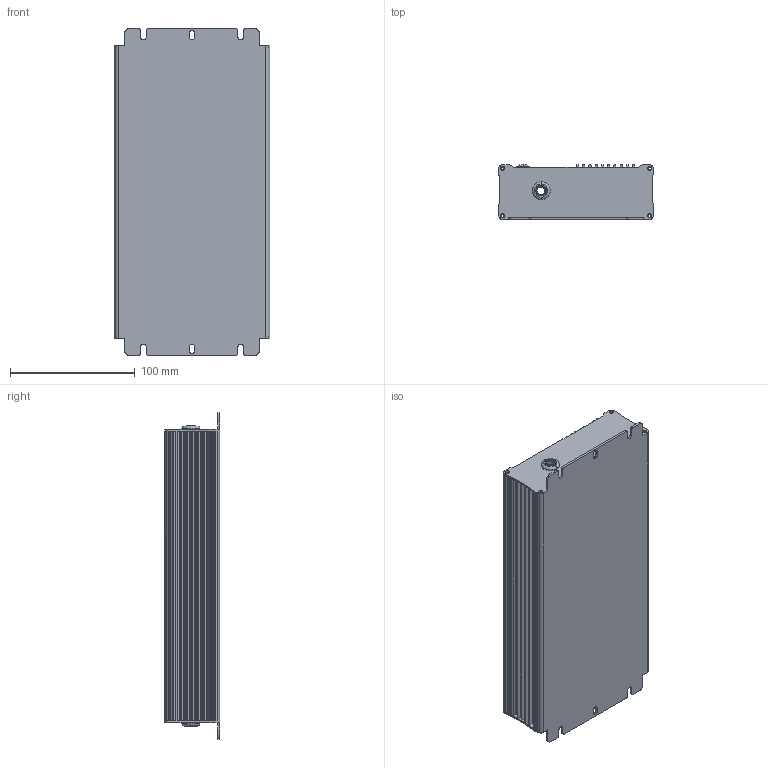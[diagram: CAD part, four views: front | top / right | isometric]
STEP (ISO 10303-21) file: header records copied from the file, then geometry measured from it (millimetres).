
FILE_DESCRIPTION(('Creo Elements/Direct Modeling STEP Export'),'2;1');
FILE_NAME('HLG-480-ATYPE.stp','2017-07-24T10:04:14',(''),(''),'PTC Creo Elements/Direct Modeling STEP processor for AP214 (Solid Model)','PTC Creo Elements/Direct Modeling 19.0 09-May-2014 (C) Parametric Technology GmbH','');
FILE_SCHEMA(('AUTOMOTIVE_DESIGN { 1 0 10303 214 1 1 1 1 }'));
Length unit declared in the file: millimetre
Products named in the file (5): ddd.2; ddd.1; ddd; 下蓋.1; HLG-480
Assembly tree (4 placements, depth 2):
  HLG-480
    下蓋.1
    ddd
    ddd.1
    ddd.2
Bounding box: 125.02 x 44.3 x 262 mm (x, y, z)
Volume: 226791.3 mm3; surface area: 212045.9 mm2
Topology: 3 solids, 5 shells, 604 faces, 1626 edges, 1058 vertices
Faces by surface type: plane 283, cylinder 259, cone 42, torus 16, sphere 4
Entity records: 17754 total; most frequent: ORIENTED_EDGE 3244, DIRECTION 2981, CARTESIAN_POINT 2970, EDGE_CURVE 1622, AXIS2_PLACEMENT_3D 1069, VERTEX_POINT 1058, VECTOR 843, LINE 843
